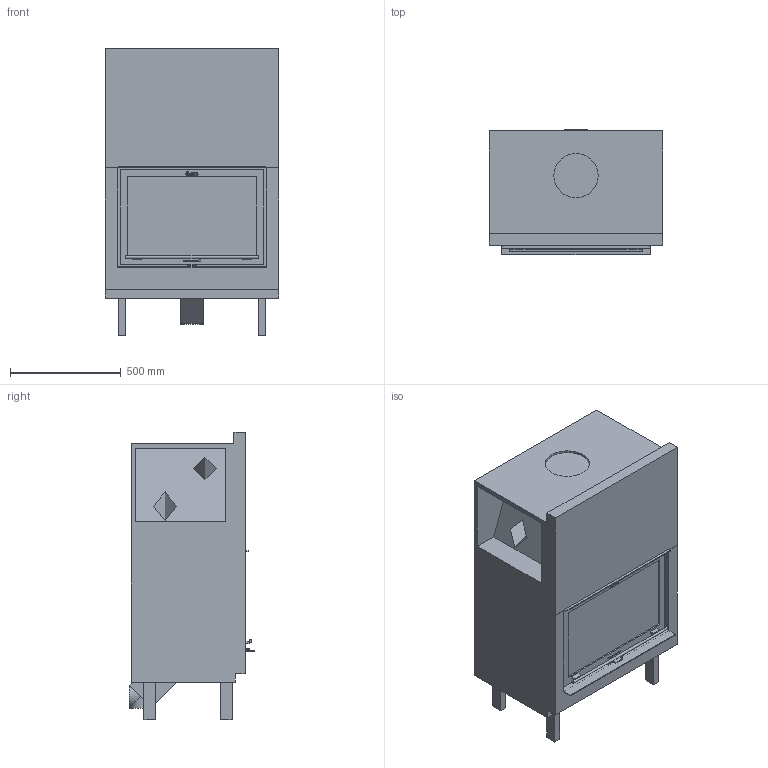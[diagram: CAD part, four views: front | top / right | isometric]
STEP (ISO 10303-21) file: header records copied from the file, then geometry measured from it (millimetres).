
FILE_DESCRIPTION( ( 'Unknown' ), '1' );
FILE_NAME( 'C:/Documents and Settings/hapierrea/Application Data/Unigraphics Solutions/Solid Edge/Insight/insight/Insight/interior models/Ci10 Assembly.stp', '2010', ( 'Unknown' ), ( 'NIBE AB' ), 'PSStep 11.0', 'Solid Edge', ' ' );
FILE_SCHEMA( ( 'AUTOMOTIVE_DESIGN { 1 0 10303 214 1 1 1 1 }' ) );
Length unit declared in the file: millimetre
Products named in the file (7): Assem1; Fire i10; Grate i10 i20; Insert i10; Firebox insulation i10; Door i10; Glass i10
Bounding box: 781 x 565.5 x 1298.26 mm (x, y, z)
Surface area: 21498051 mm2
Topology: 12 solids, 12 shells, 1964 faces, 5268 edges, 3478 vertices
Faces by surface type: plane 1298, extrusion 400, cylinder 242, cone 20, sphere 4
Full cylindrical faces by diameter (mm): 12 x2, 100 x4, 200 x4
Entity records: 42090 total; most frequent: CARTESIAN_POINT 10138, ORIENTED_EDGE 5254, DIRECTION 4325, EDGE_CURVE 2627, VECTOR 1771, VERTEX_POINT 1739, LINE 1571, AXIS2_PLACEMENT_3D 1277
